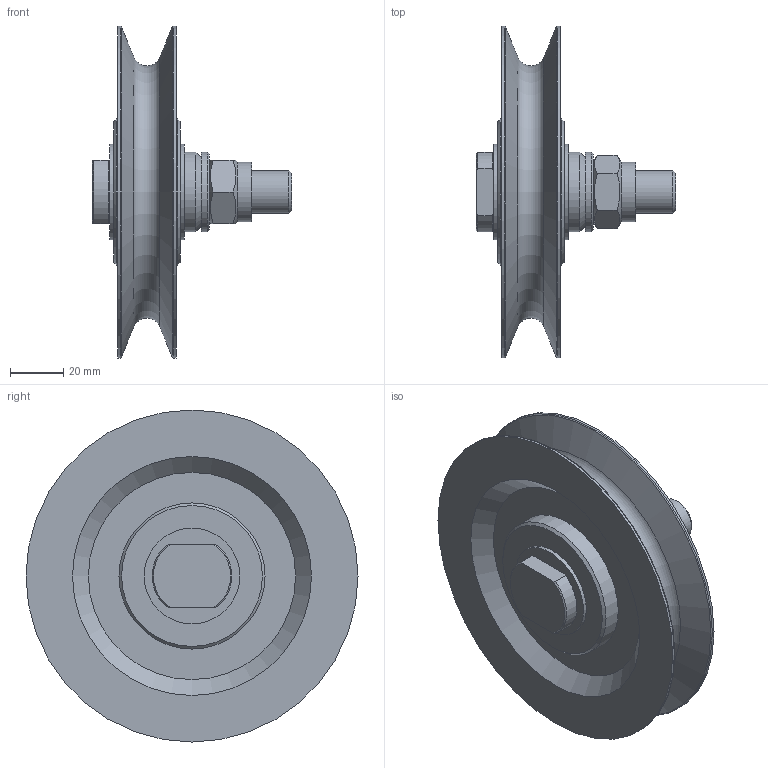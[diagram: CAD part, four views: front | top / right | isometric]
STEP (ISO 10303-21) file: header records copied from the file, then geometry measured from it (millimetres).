
FILE_DESCRIPTION(/* description */ ('Seilrolle ø125 feststehende Achse'),/* implementation_level */ '2;1');
FILE_NAME(/* name */ 'Z:\Workspace\03 Seilrollen\1.408 Seilrollen feststehende Achse Gleitlager\1.408.04 Seilrolle ø125 feststehende Achse GL\1.408.04 Seilrolle ø125 feststehende Achse.stp',/* time_stamp */ '2021-10-11T10:00:57+02:00',/* author */ ('cad-user'),/* organization */ (''),/* preprocessor_version */ 'ST-DEVELOPER v18',/* originating_system */ 'Autodesk Inventor 2020',/* authorisation */ '');
FILE_SCHEMA (('AUTOMOTIVE_DESIGN { 1 0 10303 214 3 1 1 }'));
Length unit declared in the file: millimetre
Products named in the file (9): 1.408.04 Seilrolle ø125 feststehende Achse; 1.401.04 Seilrolle ø125 Buchse komplett; 1.401.04 Seilrolle ø125 Buchse; Lagerbuchse 1625-DU; 1.408.03.02 Scheibe; 1.408.03.01 Schraube; DIN 985 - M16; DIN 125-1 - B 17; WC 18 DU Anlaufscheibe
Assembly tree (9 placements, depth 3):
  1.408.04 Seilrolle ø125 feststehende Achse
    1.401.04 Seilrolle ø125 Buchse komplett
      1.401.04 Seilrolle ø125 Buchse
      Lagerbuchse 1625-DU
    1.408.03.02 Scheibe
    1.408.03.01 Schraube
    DIN 985 - M16
    DIN 125-1 - B 17
    WC 18 DU Anlaufscheibe  x2
Bounding box: 75 x 125 x 125 mm (x, y, z)
Volume: 193893.4 mm3; surface area: 59910.8 mm2
Topology: 8 solids, 8 shells, 74 faces, 168 edges, 113 vertices
Faces by surface type: plane 29, cone 21, cylinder 21, torus 3
Full cylindrical faces by diameter (mm): 13.835 x1, 16 x1, 17 x2, 18 x1, 20 x2, 22.5 x1, 30 x2, 36 x2, 55 x2, 125 x2
Entity records: 2396 total; most frequent: CARTESIAN_POINT 407, DIRECTION 404, ORIENTED_EDGE 324, AXIS2_PLACEMENT_3D 178, EDGE_CURVE 162, VERTEX_POINT 109, CIRCLE 90, EDGE_LOOP 85
